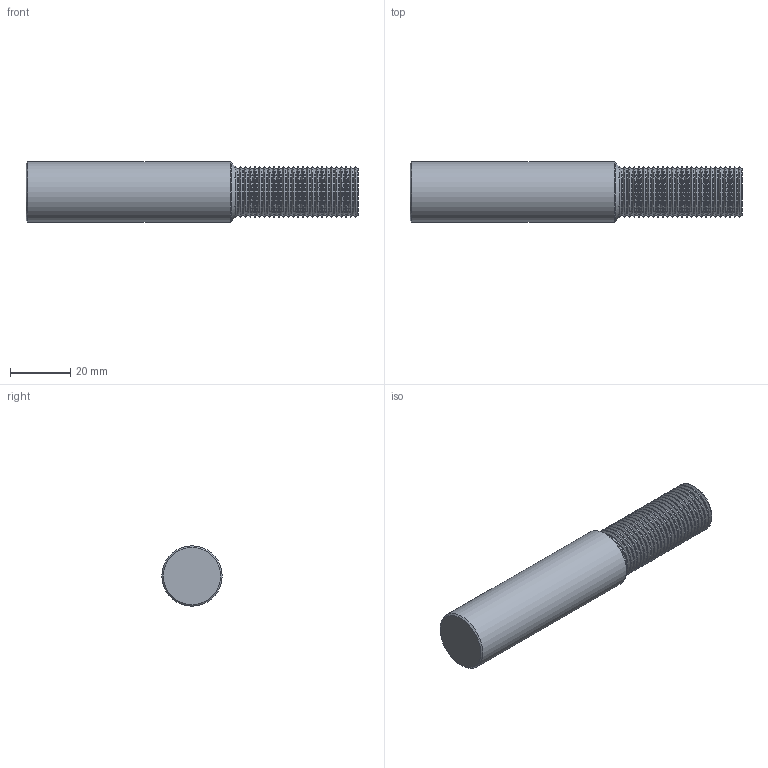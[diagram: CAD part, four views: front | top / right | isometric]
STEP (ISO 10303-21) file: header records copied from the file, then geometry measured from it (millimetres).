
FILE_DESCRIPTION(/* description */ (''),/* implementation_level */ '2;1');
FILE_NAME(/* name */ '171606-00036530-TDM',/* time_stamp */ '2024-02-21T09:54:23+01:00',/* author */ (''),/* organization */ (''),/* preprocessor_version */ 'ST-DEVELOPER v16.5',/* originating_system */ 'HiCAD 2017 2201.0 Build 268',/* authorisation */ '');
FILE_SCHEMA (('AUTOMOTIVE_DESIGN { 1 0 10303 214 1 1 1 1 }'));
Length unit declared in the file: millimetre
Products named in the file (3): Root; ROTATIONSTEIL_0
Assembly tree (2 placements, depth 3):
  Root
    ROTATIONSTEIL_0
      ROTATIONSTEIL_0
Bounding box: 110 x 20 x 20 mm (x, y, z)
Volume: 29762.6 mm3; surface area: 8721.6 mm2
Topology: 2 solids, 2 shells, 162 faces, 321 edges, 163 vertices
Faces by surface type: torus 76, cone 54, cylinder 28, plane 4
Full cylindrical faces by diameter (mm): 15.25 x26, 17 x1, 20 x1
Entity records: 4884 total; most frequent: DIRECTION 652, CARTESIAN_POINT 486, AXIS2_PLACEMENT_3D 326, PRESENTATION_STYLE_ASSIGNMENT 322, COLOUR_RGB 322, DRAUGHTING_PRE_DEFINED_CURVE_FONT 320, CURVE_STYLE 320, OVER_RIDING_STYLED_ITEM 320
